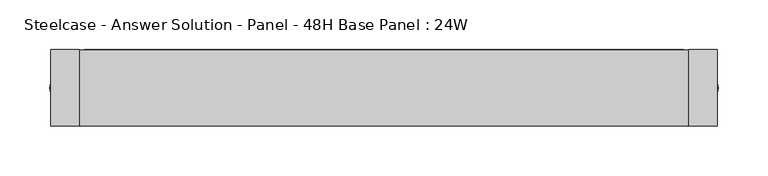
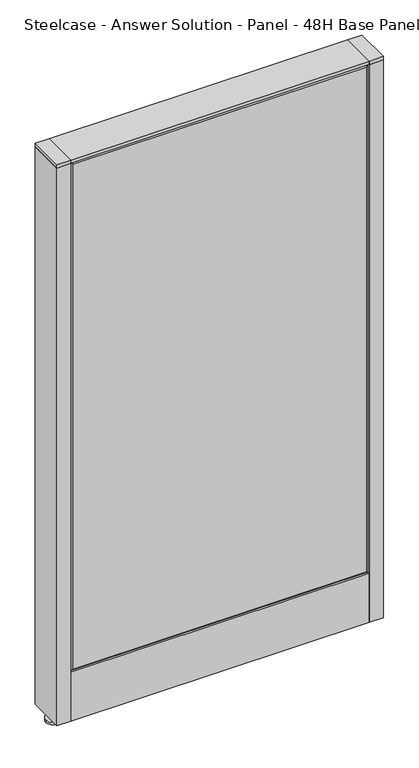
"""IFC4 building model written with IfcOpenShell, lengths in millimetres: furniture geometry, Steelcase - Answer Solution - Panel - 48H Base Panel : 24W."""

from ifc_helpers import new_model, si_unit, point, frame, frame_2d, origin, place, context, project, spatial, polyline, circle_curve, trimmed, segment, composite_curve, outline, extrude, faceted_brep, source, transform, mapped, element, save


def steelcase_answer_solution_panel_48h_base_panel_24w_5a3dff0a(model_context):
    return source(origin(), model_context, "Body", "SolidModel", [
        extrude(outline(composite_curve([segment(trimmed(circle_curve(frame_2d((319.024, 0.0320214)), 5.08), [point((324.104, 0.0320214))], [point((313.944, 0.0320214))], False, "CARTESIAN"), True, "CONTINUOUS"), segment(trimmed(circle_curve(frame_2d((319.024, 0.0320214)), 5.08), [point((313.944, 0.0320214))], [point((324.104, 0.0320214))], False, "CARTESIAN"), True, "CONTINUOUS")], self_intersect=False)), frame((0.0, 0.0, 5.0799671), z_axis=(0.0, 0.0, 1.0), x_axis=(1.0, 0.0, 0.0)), (0.0, 0.0, 1.0), 10.414),
        extrude(outline(composite_curve([segment(trimmed(circle_curve(frame_2d((319.024, 0.0320214)), 15.24), [point((334.264, 0.0320214))], [point((303.784, 0.0320214))], False, "CARTESIAN"), True, "CONTINUOUS"), segment(trimmed(circle_curve(frame_2d((319.024, 0.0320214)), 15.24), [point((303.784, 0.0320214))], [point((334.264, 0.0320214))], False, "CARTESIAN"), True, "CONTINUOUS")], self_intersect=False)), frame((0.0, 0.0, -3.29e-05), z_axis=(0.0, 0.0, 1.0), x_axis=(1.0, 0.0, 0.0)), (0.0, 0.0, 1.0), 5.08),
        extrude(outline(polyline([(333.375, 38.1320408), (333.375, -38.0679592), (304.8, -38.0679592), (304.8, 38.1320408), (333.375, 38.1320408)])), frame((0.0, 0.0, 1218.2348), z_axis=(0.0, 0.0, 1.0), x_axis=(1.0, 0.0, 0.0)), (0.0, 0.0, 1.0), 7.3151671),
        extrude(outline(polyline([(333.375, 38.1320408), (333.375, -38.0679592), (304.8, -38.0679592), (304.8, 38.1320408), (333.375, 38.1320408)])), frame((0.0, 0.0, 15.4939671), z_axis=(0.0, 0.0, 1.0), x_axis=(1.0, 0.0, 0.0)), (0.0, 0.0, 1.0), 1202.7408329),
        extrude(outline(composite_curve([segment(trimmed(circle_curve(frame_2d((-319.024, 0.0320214)), 5.08), [point((-324.104, 0.0320214))], [point((-313.944, 0.0320214))], False, "CARTESIAN"), True, "CONTINUOUS"), segment(trimmed(circle_curve(frame_2d((-319.024, 0.0320214)), 5.08), [point((-313.944, 0.0320214))], [point((-324.104, 0.0320214))], False, "CARTESIAN"), True, "CONTINUOUS")], self_intersect=False)), frame((0.0, 0.0, 5.0799671), z_axis=(0.0, 0.0, 1.0), x_axis=(1.0, 0.0, 0.0)), (0.0, 0.0, 1.0), 10.414),
        extrude(outline(composite_curve([segment(trimmed(circle_curve(frame_2d((-319.024, 0.0320214)), 15.24), [point((-334.264, 0.0320214))], [point((-303.784, 0.0320214))], False, "CARTESIAN"), True, "CONTINUOUS"), segment(trimmed(circle_curve(frame_2d((-319.024, 0.0320214)), 15.24), [point((-303.784, 0.0320214))], [point((-334.264, 0.0320214))], False, "CARTESIAN"), True, "CONTINUOUS")], self_intersect=False)), frame((0.0, 0.0, -3.29e-05), z_axis=(0.0, 0.0, 1.0), x_axis=(1.0, 0.0, 0.0)), (0.0, 0.0, 1.0), 5.08),
        extrude(outline(polyline([(-333.375, 38.1320408), (-304.8, 38.1320408), (-304.8, -38.0679592), (-333.375, -38.0679592), (-333.375, 38.1320408)])), frame((0.0, 0.0, 1218.2348), z_axis=(0.0, 0.0, 1.0), x_axis=(1.0, 0.0, 0.0)), (0.0, 0.0, 1.0), 7.3151671),
        extrude(outline(polyline([(-333.375, 38.1320408), (-304.8, 38.1320408), (-304.8, -38.0679592), (-333.375, -38.0679592), (-333.375, 38.1320408)])), frame((0.0, 0.0, 15.4939671), z_axis=(0.0, 0.0, 1.0), x_axis=(1.0, 0.0, 0.0)), (0.0, 0.0, 1.0), 1202.7408329),
        faceted_brep([(-299.974, 38.1635011, 1214.374), (299.974, 38.1635011, 1214.374), (299.974, 38.1635011, 125.476), (-299.974, 38.1635011, 125.476), (-304.8, 33.3375011, 1219.2), (-304.8, 33.3375011, 120.65), (304.8, 33.3375011, 120.65), (304.8, 33.3375011, 1219.2)], [[[0, 1, 2, 3]], [[4, 5, 6, 7]], [[4, 7, 1, 0]], [[7, 6, 2, 1]], [[6, 5, 3, 2]], [[5, 4, 0, 3]]]),
        faceted_brep([(299.974, -38.1635011, 1214.374), (-299.974, -38.1635011, 1214.374), (-299.974, -38.1635011, 125.476), (299.974, -38.1635011, 125.476), (304.8, -33.3375011, 1219.2), (304.8, -33.3375011, 120.65), (-304.8, -33.3375011, 120.65), (-304.8, -33.3375011, 1219.2)], [[[0, 1, 2, 3]], [[4, 5, 6, 7]], [[4, 7, 1, 0]], [[7, 6, 2, 1]], [[6, 5, 3, 2]], [[5, 4, 0, 3]]]),
        extrude(outline(polyline([(304.8, 38.1000194), (304.8, -38.1000194), (-304.8, -38.1000194), (-304.8, 38.1000194), (304.8, 38.1000194)])), frame((0.0, 0.0, 1219.2), z_axis=(0.0, 0.0, 1.0), x_axis=(1.0, 0.0, 0.0)), (0.0, 0.0, 1.0), 6.35),
        extrude(outline(polyline([(25.4000011, 119.8575157), (25.4000011, 120.65), (38.1000194, 120.65), (38.1000194, 15.494), (37.3075215, 15.494), (37.3075215, 119.8575157), (25.4000011, 119.8575157)])), frame((-304.8, 0.0, 0.0), z_axis=(1.0, 0.0, 0.0), x_axis=(0.0, 1.0, 0.0)), (0.0, 0.0, 1.0), 609.6),
        extrude(outline(polyline([(-25.4000011, 119.8575157), (-37.3075215, 119.8575157), (-37.3075215, 15.494), (-38.1000194, 15.494), (-38.1000194, 120.65), (-25.4000011, 120.65), (-25.4000011, 119.8575157)])), frame((-304.8, 0.0, 0.0), z_axis=(1.0, 0.0, 0.0), x_axis=(0.0, 1.0, 0.0)), (0.0, 0.0, 1.0), 609.6),
    ])


if __name__ == "__main__":
    model = new_model("IFC4")
    model_context = context("Model", 3, world=origin())
    ifc_project = project(units=[si_unit("LENGTHUNIT", "METRE", prefix="MILLI")], contexts=[model_context])
    site = spatial("IfcSite", under=ifc_project)
    building = spatial("IfcBuilding", under=site)
    placement = place(None, origin())
    steelcase_answer_solution_panel_48h_base_panel_24w_shape = steelcase_answer_solution_panel_48h_base_panel_24w_5a3dff0a(model_context)
    element("IfcFurniture", 1, ObjectType="Steelcase - Answer Solution - Panel - 48H Base Panel : 24W", at=placement, inside=building, context=model_context, shape_type="MappedRepresentation", body=[
        mapped(steelcase_answer_solution_panel_48h_base_panel_24w_shape, transform((0.0, 0.0, 0.0), x_axis=(1.0, 0.0, 0.0), y_axis=(0.0, 1.0, 0.0), z_axis=(0.0, 0.0, 1.0))),
    ])
    save(model, "model.ifc")
